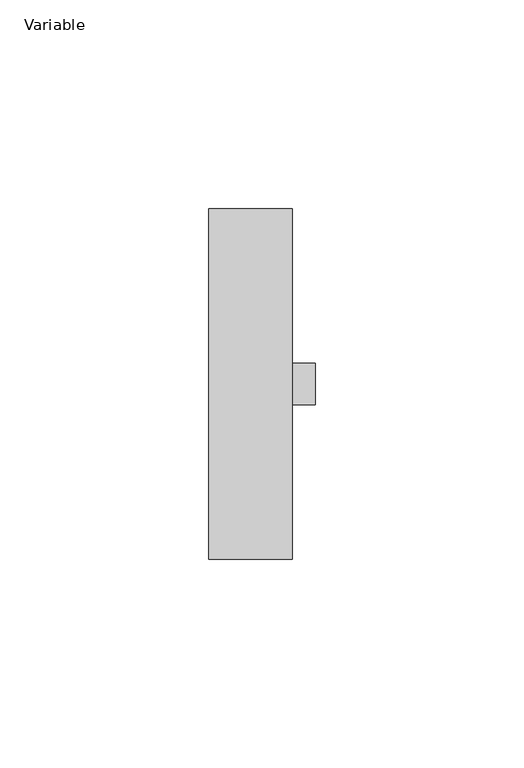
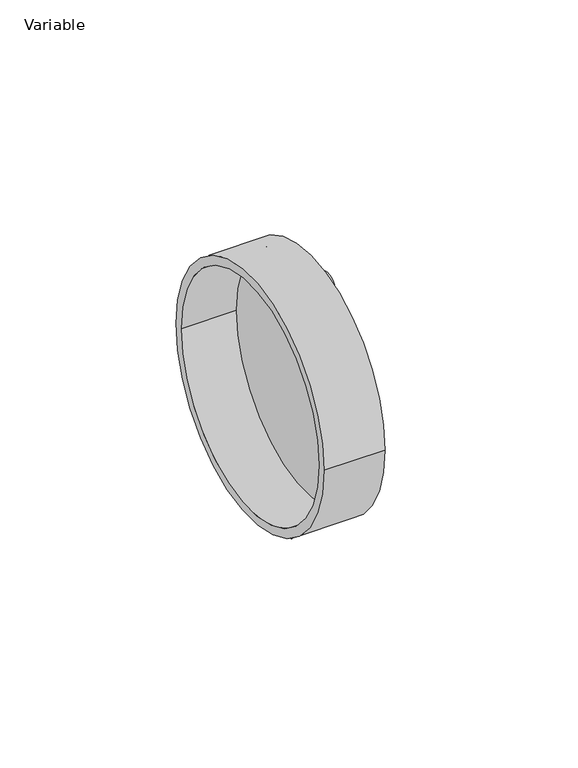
"""IFC4 building model written with IfcOpenShell, lengths in millimetres: pipe fitting geometry, AliaxisFR_Friaphon_ScrewCap_FR : Variable."""

from ifc_helpers import new_model, si_unit, point, frame, frame_2d, origin, place, context, project, spatial, polyline, circle_curve, trimmed, segment, composite_curve, outline, extrude, source, transform, mapped, element, save
from ifc_brep_helpers import plane_surface, cylinder_surface, revolved_surface, advanced_brep


def variable_fae0d510(model_context):
    return source(origin(), model_context, "Body", "SolidModel", [
        extrude(outline(composite_curve([segment(trimmed(circle_curve(frame_2d((0.0, 29.0)), 5.0), [point((-5.0, 29.0))], [point((5.0, 29.0))], False, "CARTESIAN"), True, "CONTINUOUS"), segment(trimmed(circle_curve(frame_2d((0.0, 29.0)), 5.0), [point((5.0, 29.0))], [point((-5.0, 29.0))], False, "CARTESIAN"), True, "CONTINUOUS")], self_intersect=False), holes=[composite_curve([segment(trimmed(circle_curve(frame_2d((0.0, 29.0)), 3.0), [point((-3.0, 29.0))], [point((3.0, 29.0))], True, "CARTESIAN"), True, "CONTINUOUS"), segment(trimmed(circle_curve(frame_2d((0.0, 29.0)), 3.0), [point((3.0, 29.0))], [point((-3.0, 29.0))], True, "CARTESIAN"), True, "CONTINUOUS")], self_intersect=False)]), frame((20.0, 0.0, 0.0), z_axis=(1.0, 0.0, 0.0), x_axis=(0.0, 1.0, 0.0)), (0.0, 0.0, 1.0), 5.5),
        extrude(outline(composite_curve([segment(trimmed(circle_curve(frame_2d((0.0, -29.0)), 5.0), [point((-5.0, -29.0))], [point((5.0, -29.0))], False, "CARTESIAN"), True, "CONTINUOUS"), segment(trimmed(circle_curve(frame_2d((0.0, -29.0)), 5.0), [point((5.0, -29.0))], [point((-5.0, -29.0))], False, "CARTESIAN"), True, "CONTINUOUS")], self_intersect=False), holes=[composite_curve([segment(trimmed(circle_curve(frame_2d((0.0, -29.0)), 3.0), [point((-3.0, -29.0))], [point((3.0, -29.0))], True, "CARTESIAN"), True, "CONTINUOUS"), segment(trimmed(circle_curve(frame_2d((0.0, -29.0)), 3.0), [point((3.0, -29.0))], [point((-3.0, -29.0))], True, "CARTESIAN"), True, "CONTINUOUS")], self_intersect=False)]), frame((20.0, 0.0, 0.0), z_axis=(1.0, 0.0, 0.0), x_axis=(0.0, 1.0, 0.0)), (0.0, 0.0, 1.0), 5.5),
        advanced_brep(
        [(20.0, -42.0, 0.0), (20.0, 42.0, 0.0), (0.0, -42.0, 0.0), (0.0, 42.0, 0.0), (0.0, -39.0, 0.0), (0.0, 39.0, 0.0), (18.125, -39.0, 0.0), (18.125, 39.0, 0.0)],
        [
            (0, 1, circle_curve(frame((20.0, 0.0, 0.0), z_axis=(1.0, 0.0, 0.0), x_axis=(0.0, 1.0, 0.0)), 42.0)),
            (1, 0, circle_curve(frame((20.0, 0.0, 0.0), z_axis=(1.0, 0.0, 0.0), x_axis=(0.0, 1.0, 0.0)), 42.0)),
            (2, 3, circle_curve(frame((0.0, 0.0, 0.0), z_axis=(-1.0, 0.0, 0.0), x_axis=(0.0, 1.0, 0.0)), 42.0)),
            (3, 2, circle_curve(frame((0.0, 0.0, 0.0), z_axis=(-1.0, 0.0, 0.0), x_axis=(0.0, 1.0, 0.0)), 42.0)),
            (4, 5, circle_curve(frame((0.0, 0.0, 0.0), z_axis=(1.0, 0.0, 0.0), x_axis=(0.0, 1.0, 0.0)), 39.0)),
            (5, 4, circle_curve(frame((0.0, 0.0, 0.0), z_axis=(1.0, 0.0, 0.0), x_axis=(0.0, 1.0, 0.0)), 39.0)),
            (0, 2),
            (3, 1),
            (6, 7, circle_curve(frame((18.125, 0.0, 0.0), z_axis=(-1.0, 0.0, 0.0), x_axis=(0.0, 1.0, 0.0)), 39.0)),
            (7, 6, circle_curve(frame((18.125, 0.0, 0.0), z_axis=(-1.0, 0.0, 0.0), x_axis=(0.0, 1.0, 0.0)), 39.0)),
            (7, 5),
            (4, 6),
        ],
        [
            plane_surface(frame((20.0, 42.0, 0.0), z_axis=(1.0, 0.0, 0.0), x_axis=(0.0, 0.0, 1.0))),
            plane_surface(frame((0.0, 42.0, 0.0), z_axis=(-1.0, 0.0, 0.0), x_axis=(0.0, 0.0, -1.0))),
            cylinder_surface(frame((0.0, 0.0, 0.0), z_axis=(1.0, 0.0, 0.0), x_axis=(0.0, 1.0, 0.0)), 42.0),
            plane_surface(frame((18.125, 39.0, 0.0), z_axis=(-1.0, 0.0, 0.0), x_axis=(0.0, 0.0, 1.0))),
            revolved_surface(polyline([(18.125, 39.0, 0.0), (0.0, 39.0, 0.0)]), (0.0, 0.0, 0.0), (1.0, 0.0, 0.0)),
        ],
        [
            (0, [[1, 2]]),
            (1, [[3, 4], [5, 6]]),
            (2, [[-1, 7, -4, 8]]),
            (2, [[-2, -8, -3, -7]]),
            (3, [[9, 10]]),
            (4, [[-10, 11, -5, 12]]),
            (4, [[-9, -12, -6, -11]]),
        ],
    ),
    ])


if __name__ == "__main__":
    model = new_model("IFC4")
    model_context = context("Model", 3, world=origin())
    ifc_project = project(units=[si_unit("LENGTHUNIT", "METRE", prefix="MILLI")], contexts=[model_context])
    site = spatial("IfcSite", under=ifc_project)
    building = spatial("IfcBuilding", under=site)
    placement = place(None, origin())
    variable_shape = variable_fae0d510(model_context)
    element("IfcPipeFitting", 1, ObjectType="AliaxisFR_Friaphon_ScrewCap_FR : Variable", at=placement, inside=building, context=model_context, shape_type="MappedRepresentation", body=[
        mapped(variable_shape, transform((0.0, 0.0, 0.0), x_axis=(1.0, 0.0, 0.0), y_axis=(0.0, 1.0, 0.0), z_axis=(0.0, 0.0, 1.0))),
    ])
    save(model, "model.ifc")
